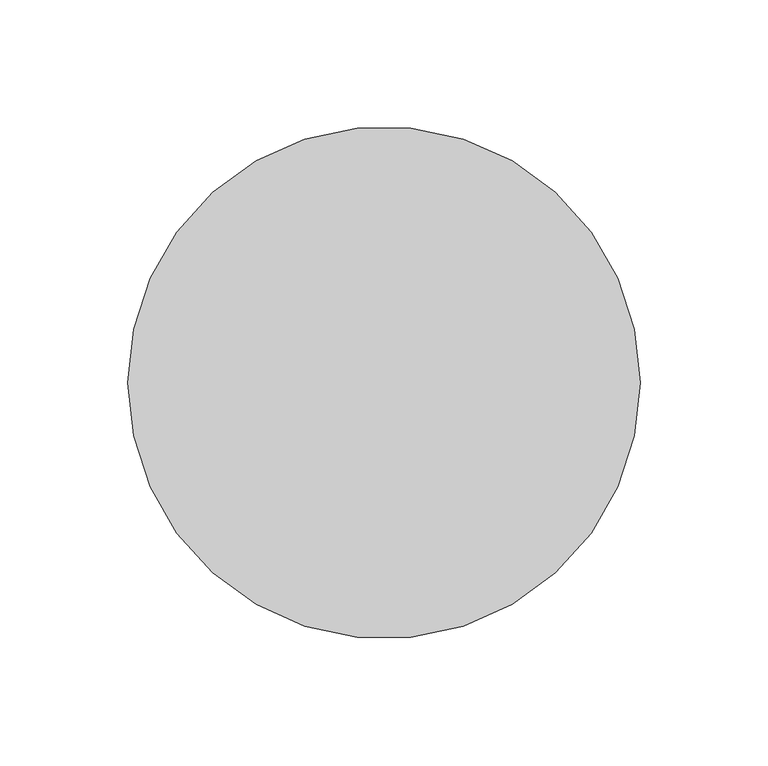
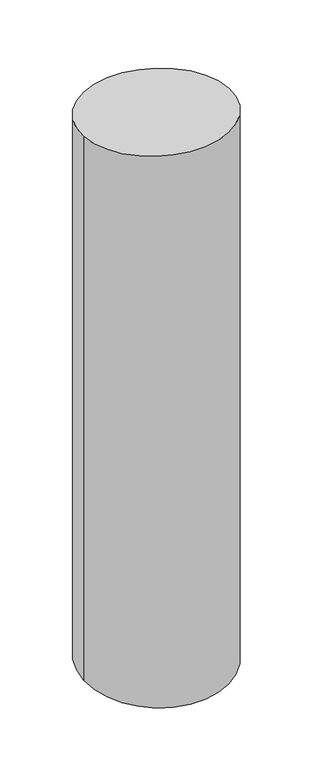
"""IFC4 building model written with IfcOpenShell, lengths in millimetres: member geometry, 矩形竖梃 : 圆瓦."""

from ifc_helpers import new_model, si_unit, frame, origin, origin_with_axes, place, context, project, spatial, ellipse_curve, source, transform, mapped, element, save
from ifc_brep_helpers import plane_surface, cylinder_surface, advanced_brep


def member_c71233b3(model_context):
    return source(origin(), model_context, "Body", "AdvancedBrep", [
        advanced_brep(
        [(-100.0, 0.0, 0.0), (100.0, 0.0, 0.0), (100.0, 0.0, -790.1124317), (-100.0, 0.0, -790.1124317)],
        [
            (0, 1, ellipse_curve(frame((0.0, 0.0, 0.0), z_axis=(0.0, -0.06767279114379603, -0.9977075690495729), x_axis=(0.0, -0.9977075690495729, 0.06767279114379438)), 100.2297698, 100.0)),
            (1, 2),
            (2, 3, ellipse_curve(frame((0.0, 0.0, -790.1124317), z_axis=(0.0, -0.06558492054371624, 0.9978469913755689), x_axis=(0.0, 0.997846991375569, 0.06558492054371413)), 100.2157654, 100.0)),
            (3, 0),
            (1, 0, ellipse_curve(frame((0.0, 0.0, 0.0), z_axis=(0.0, -0.06767279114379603, -0.9977075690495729), x_axis=(0.0, -0.9977075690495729, 0.06767279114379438)), 100.2297698, 100.0)),
            (3, 2, ellipse_curve(frame((0.0, 0.0, -790.1124317), z_axis=(0.0, -0.06558492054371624, 0.9978469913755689), x_axis=(0.0, 0.997846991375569, 0.06558492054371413)), 100.2157654, 100.0)),
        ],
        [
            cylinder_surface(origin_with_axes(), 100.0),
            plane_surface(frame((-304.8, 0.0, 0.0), z_axis=(0.0, 0.06767279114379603, 0.9977075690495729), x_axis=(0.0, 0.9977075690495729, -0.06767279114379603))),
            plane_surface(frame((-304.8, 0.0, -790.1124317), z_axis=(0.0, 0.06558492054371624, -0.9978469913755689), x_axis=(0.0, 0.9978469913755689, 0.06558492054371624))),
        ],
        [
            (0, [[1, 2, 3, 4]]),
            (0, [[5, -4, 6, -2]]),
            (1, [[-1, -5]]),
            (2, [[-6, -3]]),
        ],
    ),
    ])


if __name__ == "__main__":
    model = new_model("IFC4")
    model_context = context("Model", 3, world=origin())
    ifc_project = project(units=[si_unit("LENGTHUNIT", "METRE", prefix="MILLI")], contexts=[model_context])
    site = spatial("IfcSite", under=ifc_project)
    building = spatial("IfcBuilding", under=site)
    placement = place(None, origin())
    member_shape = member_c71233b3(model_context)
    element("IfcMember", 1, ObjectType="矩形竖梃 : 圆瓦", at=placement, inside=building, context=model_context, shape_type="MappedRepresentation", body=[
        mapped(member_shape, transform((0.0, 0.0, 0.0), x_axis=(1.0, 0.0, 0.0), y_axis=(0.0, 1.0, 0.0), z_axis=(0.0, 0.0, 1.0))),
    ])
    save(model, "model.ifc")
